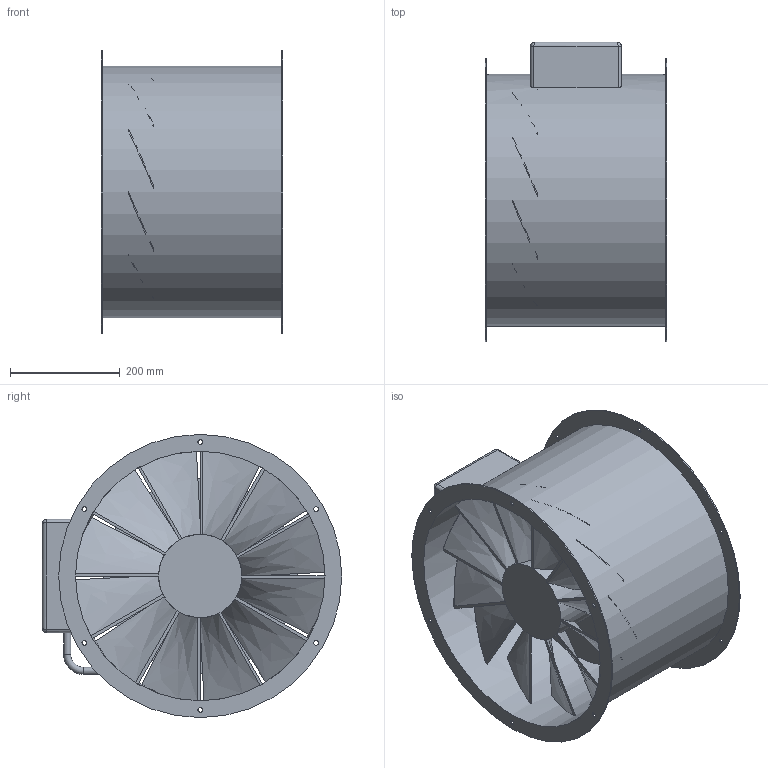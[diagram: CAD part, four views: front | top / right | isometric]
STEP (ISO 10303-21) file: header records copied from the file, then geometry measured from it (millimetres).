
FILE_DESCRIPTION(/* description */ (''),/* implementation_level */ '2;1');
FILE_NAME(/* name */ 'Z:\Output\HRFW 450-4-00209-021.stp',/* time_stamp */ '2017-05-04T18:36:20+02:00',/* author */ ('Engineering1'),/* organization */ (''),/* preprocessor_version */ 'ST-DEVELOPER v16.5',/* originating_system */ 'Autodesk Inventor 2017',/* authorisation */ '');
FILE_SCHEMA (('AUTOMOTIVE_DESIGN { 1 0 10303 214 3 1 1 }'));
Length unit declared in the file: millimetre
Products named in the file (1): HRF-1
Bounding box: 330 x 545 x 515 mm (x, y, z)
Volume: 12341832.3 mm3; surface area: 1833512.9 mm2
Topology: 2 solids, 2 shells, 107 faces, 265 edges, 161 vertices
Faces by surface type: bspline 40, plane 37, cylinder 29, torus 1
Full cylindrical faces by diameter (mm): 8.5 x12, 12.875 x3, 151.333 x1, 354 x1, 454 x1, 458 x1, 515 x2
Entity records: 4012 total; most frequent: CARTESIAN_POINT 1652, ORIENTED_EDGE 490, DIRECTION 404, EDGE_CURVE 233, EDGE_LOOP 174, VERTEX_POINT 157, AXIS2_PLACEMENT_3D 157, FACE_OUTER_BOUND 107
